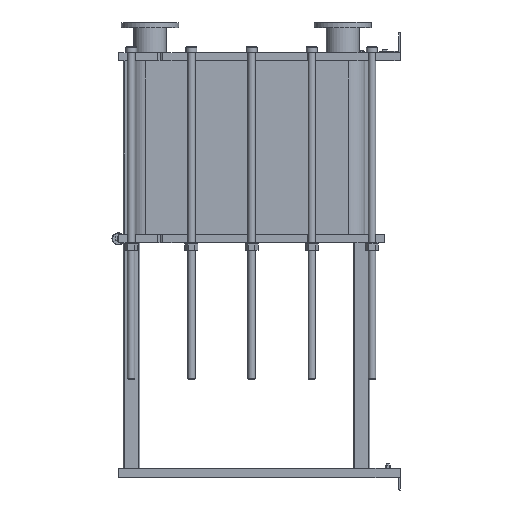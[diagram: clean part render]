
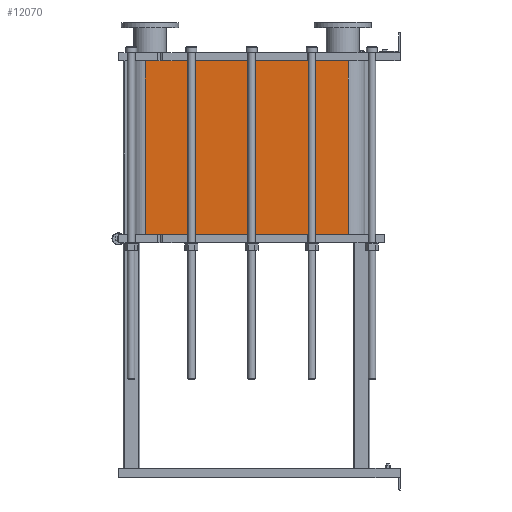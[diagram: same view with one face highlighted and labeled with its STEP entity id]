
A CAD part, left-side view. The second image highlights one B-rep face of the part: STEP entity #12070.
In plain terms, the highlighted planar face has unit normal (-1, 0, 0).
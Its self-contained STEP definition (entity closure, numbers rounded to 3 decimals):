
#1064=LINE('',#21140,#2164);
#1065=LINE('',#21144,#2165);
#1066=LINE('',#21146,#2166);
#1067=LINE('',#21147,#2167);
#2164=VECTOR('',#15790,10.);
#2165=VECTOR('',#15795,10.);
#2166=VECTOR('',#15796,10.);
#2167=VECTOR('',#15797,10.);
#3304=FACE_OUTER_BOUND('',#4091,.T.);
#4091=EDGE_LOOP('',(#9793,#9794,#9795,#9796));
#5677=VERTEX_POINT('',#21137);
#5678=VERTEX_POINT('',#21139);
#5679=VERTEX_POINT('',#21143);
#5680=VERTEX_POINT('',#21145);
#7118=EDGE_CURVE('',#5678,#5677,#1064,.T.);
#7120=EDGE_CURVE('',#5677,#5679,#1065,.T.);
#7121=EDGE_CURVE('',#5680,#5679,#1066,.T.);
#7122=EDGE_CURVE('',#5680,#5678,#1067,.T.);
#9793=ORIENTED_EDGE('',*,*,#7120,.T.);
#9794=ORIENTED_EDGE('',*,*,#7121,.F.);
#9795=ORIENTED_EDGE('',*,*,#7122,.T.);
#9796=ORIENTED_EDGE('',*,*,#7118,.T.);
#11441=PLANE('',#13191);
#12070=ADVANCED_FACE('',(#3304),#11441,.T.);
#13191=AXIS2_PLACEMENT_3D('',#21142,#15793,#15794);
#15790=DIRECTION('',(0.,0.,-1.));
#15793=DIRECTION('center_axis',(-1.,0.,0.));
#15794=DIRECTION('ref_axis',(0.,1.,0.));
#15795=DIRECTION('',(0.,-1.,0.));
#15796=DIRECTION('',(0.,0.,-1.));
#15797=DIRECTION('',(0.,1.,0.));
#21137=CARTESIAN_POINT('',(-248.152,1243.818,-848.7));
#21139=CARTESIAN_POINT('',(-248.152,1243.818,0.));
#21140=CARTESIAN_POINT('',(-248.152,1243.818,0.));
#21142=CARTESIAN_POINT('Origin',(-248.152,251.818,0.));
#21143=CARTESIAN_POINT('',(-248.152,251.818,-848.7));
#21144=CARTESIAN_POINT('',(-248.152,499.818,-848.7));
#21145=CARTESIAN_POINT('',(-248.152,251.818,0.));
#21146=CARTESIAN_POINT('',(-248.152,251.818,0.));
#21147=CARTESIAN_POINT('',(-248.152,251.818,0.));
